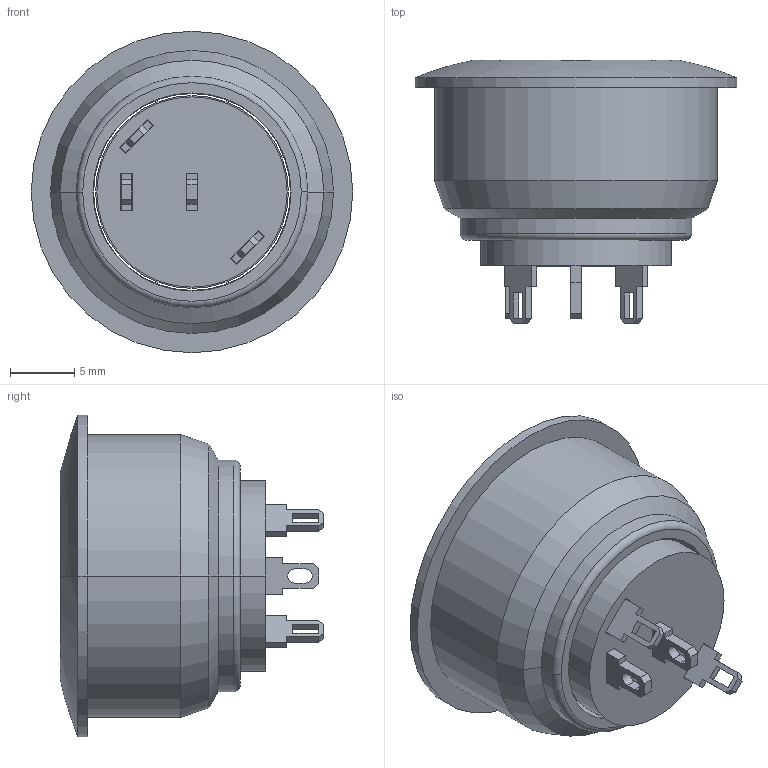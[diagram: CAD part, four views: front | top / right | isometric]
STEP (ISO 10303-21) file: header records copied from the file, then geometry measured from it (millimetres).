
FILE_DESCRIPTION((''),'2;1');
FILE_NAME('AV3SLD209V009','2011-10-27T',('jlgachon'),(''),'PRO/ENGINEER BY PARAMETRIC TECHNOLOGY CORPORATION, 2010280','PRO/ENGINEER BY PARAMETRIC TECHNOLOGY CORPORATION, 2010280','');
FILE_SCHEMA(('CONFIG_CONTROL_DESIGN'));
Length unit declared in the file: millimetre
Products named in the file (1): AV3SLD209V009
Bounding box: 25 x 20.48 x 25 mm (x, y, z)
Surface area: 2007.9 mm2 (no closed solid volume)
Topology: 0 solids, 13 shells, 87 faces, 312 edges, 240 vertices
Faces by surface type: plane 67, cylinder 12, cone 4, torus 2, bspline 2
Entity records: 3425 total; most frequent: CARTESIAN_POINT 669, DIRECTION 554, ORIENTED_EDGE 500, EDGE_CURVE 312, VECTOR 240, LINE 240, VERTEX_POINT 240, AXIS2_PLACEMENT_3D 157
